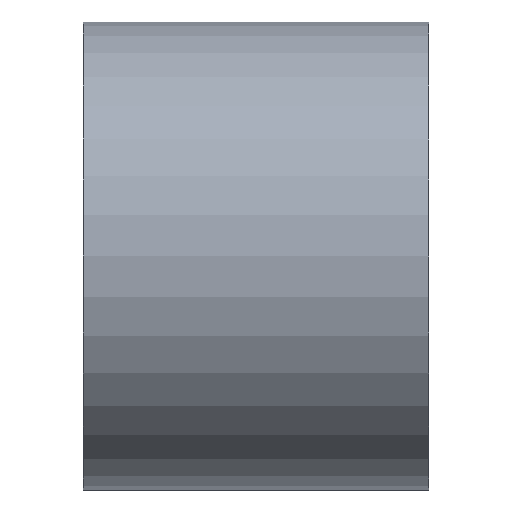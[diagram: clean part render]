
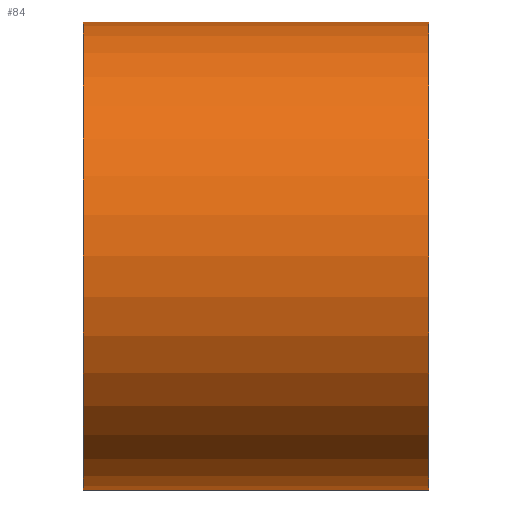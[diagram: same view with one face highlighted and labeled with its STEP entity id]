
A CAD part, front view. The second image highlights one B-rep face of the part: STEP entity #84.
In plain terms, the highlighted cylindrical face has radius 305 mm (diameter 610 mm), a partial arc.
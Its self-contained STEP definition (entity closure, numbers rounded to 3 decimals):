
#84=ADVANCED_FACE('',(#164),#165,.T.);
#164=FACE_OUTER_BOUND('',#255,.T.);
#165=CYLINDRICAL_SURFACE('',#256,305.0);
#255=EDGE_LOOP('',(#435,#436,#437,#438));
#256=AXIS2_PLACEMENT_3D('',#439,#440,#441);
#435=ORIENTED_EDGE('',*,*,#491,.T.);
#436=ORIENTED_EDGE('',*,*,#568,.F.);
#437=ORIENTED_EDGE('',*,*,#493,.T.);
#438=ORIENTED_EDGE('',*,*,#569,.F.);
#439=CARTESIAN_POINT('',(0.0,0.0,0.0));
#440=DIRECTION('',(1.0,0.0,0.0));
#441=DIRECTION('',(0.0,0.0,-1.0));
#491=EDGE_CURVE('',#573,#574,#575,.T.);
#493=EDGE_CURVE('',#578,#576,#579,.T.);
#568=EDGE_CURVE('',#578,#574,#690,.T.);
#569=EDGE_CURVE('',#573,#576,#691,.T.);
#573=VERTEX_POINT('',#695);
#574=VERTEX_POINT('',#696);
#575=LINE('',#697,#698);
#576=VERTEX_POINT('',#699);
#578=VERTEX_POINT('',#701);
#579=LINE('',#702,#703);
#690=CIRCLE('',#832,305.0);
#691=CIRCLE('',#833,305.0);
#695=CARTESIAN_POINT('',(-225.0,0.0,-305.0));
#696=CARTESIAN_POINT('',(225.0,0.0,-305.0));
#697=CARTESIAN_POINT('',(0.0,0.,-305.0));
#698=VECTOR('',#836,1.0);
#699=CARTESIAN_POINT('',(-225.0,0.,305.0));
#701=CARTESIAN_POINT('',(225.0,0.,305.0));
#702=CARTESIAN_POINT('',(0.0,0.,305.0));
#703=VECTOR('',#840,1.0);
#832=AXIS2_PLACEMENT_3D('',#970,#971,#972);
#833=AXIS2_PLACEMENT_3D('',#973,#974,#975);
#836=DIRECTION('',(1.0,0.0,0.0));
#840=DIRECTION('',(-1.0,-0.0,-0.0));
#970=CARTESIAN_POINT('',(225.0,0.0,0.0));
#971=DIRECTION('',(1.0,0.0,0.0));
#972=DIRECTION('',(0.0,0.0,-1.0));
#973=CARTESIAN_POINT('',(-225.0,0.0,0.0));
#974=DIRECTION('',(-1.0,0.0,0.0));
#975=DIRECTION('',(0.0,0.0,-1.0));
